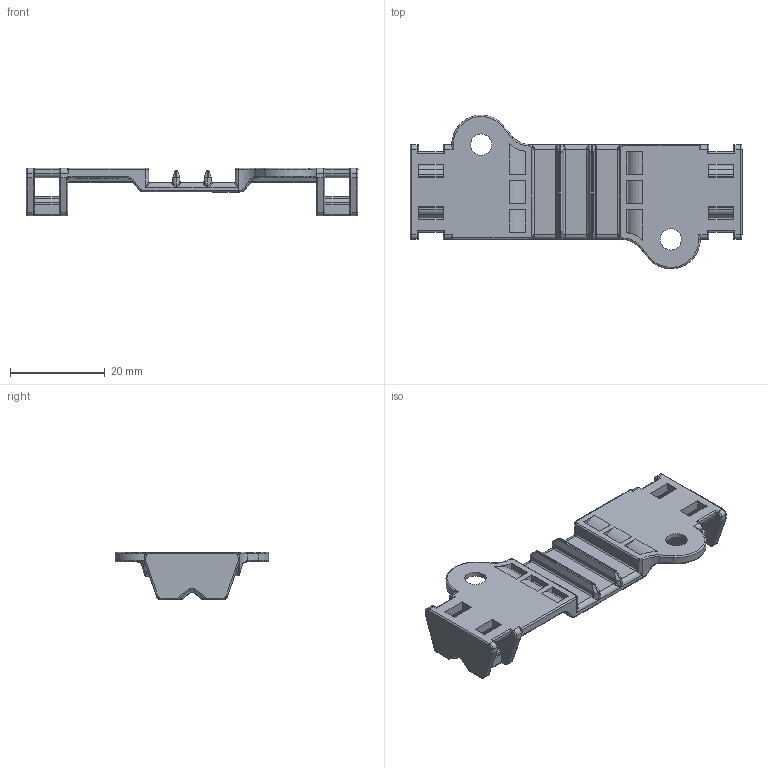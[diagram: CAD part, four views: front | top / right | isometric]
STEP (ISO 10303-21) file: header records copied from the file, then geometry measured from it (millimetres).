
FILE_DESCRIPTION(('Creo Elements/Direct Modeling STEP Export'),'2;1');
FILE_NAME('OL-G4-70.stp','2013-03-11T14:43:29',(''),(''),'Creo Elements/Direct Modeling STEP processor for AP214 (Solid Model)','Creo Elements/Direct Modeling 18.1B 29-Sep-2012 (C) Parametric Technology GmbH','');
FILE_SCHEMA(('AUTOMOTIVE_DESIGN { 1 0 10303 214 1 1 1 1 }'));
Length unit declared in the file: millimetre
Products named in the file (2): OL-G4-70
Assembly tree (1 placements, depth 2):
  OL-G4-70
    OL-G4-70
Bounding box: 70 x 32.37 x 10 mm (x, y, z)
Volume: 4255.4 mm3; surface area: 5122 mm2
Topology: 1 solids, 1 shells, 716 faces, 1869 edges, 1142 vertices
Faces by surface type: plane 322, cylinder 232, bspline 83, torus 46, extrusion 17, sphere 8, cone 8
Entity records: 31368 total; most frequent: CARTESIAN_POINT 14952, ORIENTED_EDGE 3698, DIRECTION 3028, EDGE_CURVE 1849, VERTEX_POINT 1142, VECTOR 1138, LINE 1123, AXIS2_PLACEMENT_3D 945
